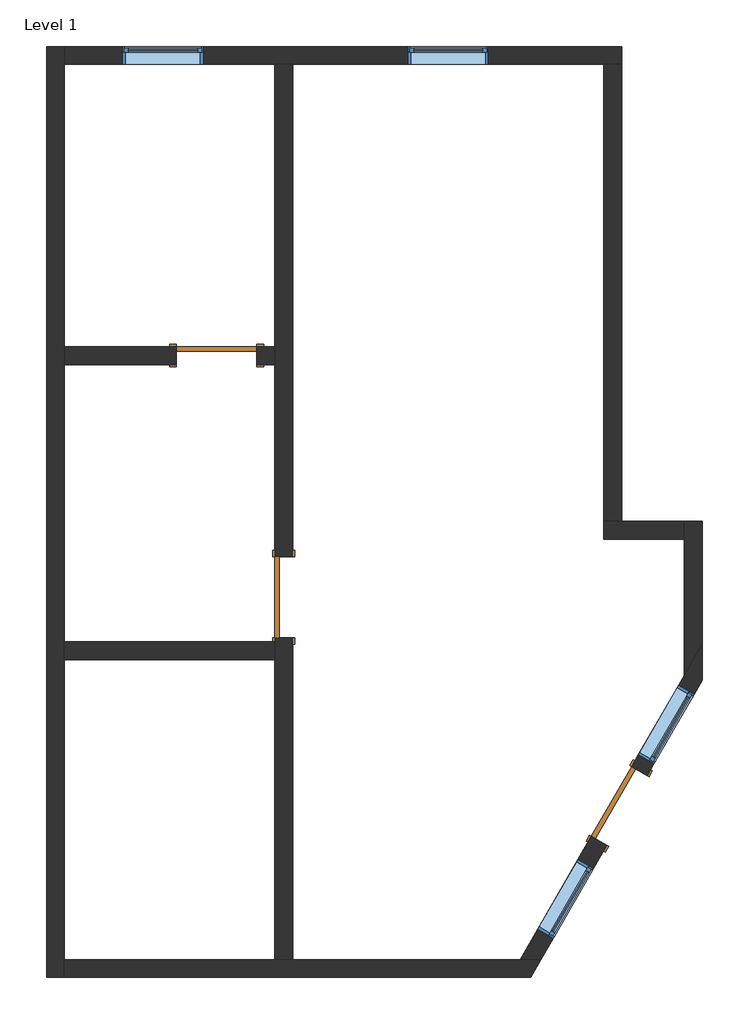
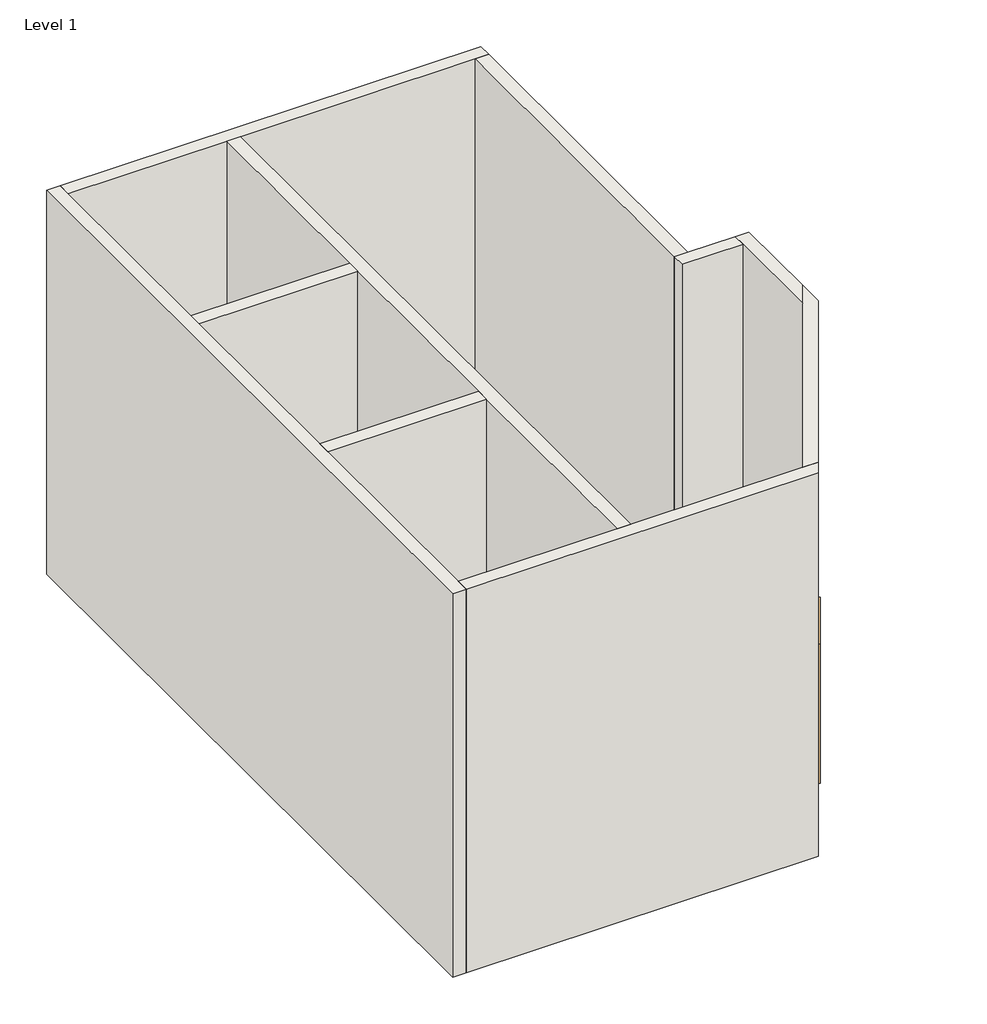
# One storey: 10 walls, 4 windows, 3 doors.
"""IFC4 building model written with IfcOpenShell, lengths in millimetres."""

from ifc_helpers import new_model, si_unit, frame, origin, origin_with_axes, place, context, project, spatial, polyline, outline, extrude, faceted_brep, transform, mapped, element, save
from components import door_719f80de, door_54dd4da4, window_e2841890

model = new_model("IFC4")

# Units and contexts
model_context = context("Model", 3, world=origin())
ifc_project = project(units=[si_unit("LENGTHUNIT", "METRE", prefix="MILLI")], contexts=[model_context])

# Site, building, storey
site = spatial("IfcSite", under=ifc_project)
building = spatial("IfcBuilding", under=site)
storey = spatial("IfcBuildingStorey", under=building, Name="Level 1", Elevation=0.0)

# Doors
placement = place(None, origin())
door_shape = door_719f80de(model_context)
element("IfcDoor", 1, ObjectType="Single-Flush : 36\" x 84\"", at=placement, inside=storey, context=model_context, shape_type="MappedRepresentation", body=[
    mapped(door_shape, transform((-4082.5360422, 8154.7646644, 0.0), x_axis=(-0.5000000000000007, -0.8660254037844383, 0.0), y_axis=(0.8660254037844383, -0.5000000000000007, 0.0), z_axis=(0.0, 0.0, 1.0))),
])
element("IfcDoor", 2, ObjectType="Single-Flush : 36\" x 84\"", at=placement, inside=storey, context=model_context, shape_type="MappedRepresentation", body=[
    mapped(door_shape, transform((-7891.1463436, 10523.37668, 0.0), x_axis=(0.0, -1.0, 0.0), y_axis=(1.0, 0.0, 0.0), z_axis=(0.0, 0.0, 1.0))),
])
door_2_shape = door_54dd4da4(model_context)
element("IfcDoor", 3, ObjectType="Single-Flush : 36\" x 84\"", at=placement, inside=storey, context=model_context, shape_type="MappedRepresentation", body=[
    mapped(door_2_shape, transform((-8653.1463436, 13266.57668, 0.0), x_axis=(1.0, 0.0, 0.0), y_axis=(0.0, 1.0, 0.0), z_axis=(0.0, 0.0, 1.0))),
])

# Walls
element("IfcWall", 4, ObjectType="Generic - 8\"", at=placement, inside=storey, context=model_context, shape_type="Brep", body=[
    faceted_brep([(-10583.5463436, 16774.2198915, 0.0), (-10583.5463436, 6207.8198915, 0.0), (-10583.5463436, 6207.8198915, 6096.0), (-10583.5463436, 16774.2198915, 6096.0), (-10380.3463436, 16774.2198915, 0.0), (-10380.3463436, 16774.2198915, 6096.0), (-10380.3463436, 16571.0198915, 6096.0), (-10380.3463436, 13368.17668, 6096.0), (-10380.3463436, 13164.97668, 6096.0), (-10380.3463436, 10015.37668, 6096.0), (-10380.3463436, 9812.17668, 6096.0), (-10380.3463436, 6411.0198915, 6096.0), (-10380.3463436, 6207.8198915, 6096.0), (-10380.3463436, 6207.8198915, 0.0), (-10380.3463436, 6411.0198915, 0.0), (-10380.3463436, 9812.17668, 0.0), (-10380.3463436, 10015.37668, 0.0), (-10380.3463436, 13164.97668, 0.0), (-10380.3463436, 13368.17668, 0.0), (-10380.3463436, 16571.0198915, 0.0)], [[[0, 1, 2, 3]], [[4, 5, 6, 7, 8, 9, 10, 11, 12, 13, 14, 15, 16, 17, 18, 19]], [[1, 0, 4, 19, 18, 17, 16, 15, 14, 13]], [[3, 2, 12, 11, 10, 9, 8, 7, 6, 5]], [[2, 1, 13, 12]], [[0, 3, 5, 4]]]),
])
element("IfcWall", 5, ObjectType="Generic - 8\"", at=placement, inside=storey, context=model_context, shape_type="Brep", body=[
    faceted_brep([(-10380.3463436, 6207.8198915, 0.0), (-5089.2875562, 6207.8198915, 0.0), (-5089.2875562, 6207.8198915, 6096.0), (-10380.3463436, 6207.8198915, 6096.0), (-10380.3463436, 6411.0198915, 0.0), (-10380.3463436, 6411.0198915, 6096.0), (-7992.7463436, 6411.0198915, 6096.0), (-7789.5463436, 6411.0198915, 6096.0), (-5206.6051309, 6411.0198915, 6096.0), (-4971.9699815, 6411.0198915, 6096.0), (-4971.9699815, 6411.0198915, 0.0), (-5206.6051309, 6411.0198915, 0.0), (-7789.5463436, 6411.0198915, 0.0), (-7992.7463436, 6411.0198915, 0.0)], [[[0, 1, 2, 3]], [[4, 5, 6, 7, 8, 9, 10, 11, 12, 13]], [[1, 0, 4, 13, 12, 11, 10]], [[3, 2, 9, 8, 7, 6, 5]], [[0, 3, 5, 4]], [[2, 1, 10, 9]]]),
])
element("IfcWall", 6, ObjectType="Generic - 8\"", at=placement, inside=storey, context=model_context, shape_type="Brep", body=[
    faceted_brep([(-4055.7463436, 16774.2198915, 0.0), (-10380.3463436, 16774.2198915, 0.0), (-10380.3463436, 16774.2198915, 6096.0), (-4055.7463436, 16774.2198915, 6096.0), (-8805.5463436, 16774.2198915, 2133.6), (-9719.9463436, 16774.2198915, 2133.6), (-9719.9463436, 16774.2198915, 914.4), (-8805.5463436, 16774.2198915, 914.4), (-5567.0463436, 16774.2198915, 2133.6), (-6481.4463436, 16774.2198915, 2133.6), (-6481.4463436, 16774.2198915, 914.4), (-5567.0463436, 16774.2198915, 914.4), (-4055.7463436, 16571.0198915, 0.0), (-4055.7463436, 16571.0198915, 6096.0), (-4258.9463436, 16571.0198915, 6096.0), (-7789.5463436, 16571.0198915, 6096.0), (-7992.7463436, 16571.0198915, 6096.0), (-10380.3463436, 16571.0198915, 6096.0), (-10380.3463436, 16571.0198915, 0.0), (-7992.7463436, 16571.0198915, 0.0), (-7789.5463436, 16571.0198915, 0.0), (-4258.9463436, 16571.0198915, 0.0), (-8805.5463436, 16571.0198915, 2133.6), (-8805.5463436, 16571.0198915, 914.4), (-9719.9463436, 16571.0198915, 914.4), (-9719.9463436, 16571.0198915, 2133.6), (-5567.0463436, 16571.0198915, 2133.6), (-5567.0463436, 16571.0198915, 914.4), (-6481.4463436, 16571.0198915, 914.4), (-6481.4463436, 16571.0198915, 2133.6)], [[[0, 1, 2, 3], [4, 5, 6, 7], [8, 9, 10, 11]], [[12, 13, 14, 15, 16, 17, 18, 19, 20, 21], [22, 23, 24, 25], [26, 27, 28, 29]], [[1, 0, 12, 21, 20, 19, 18]], [[3, 2, 17, 16, 15, 14, 13]], [[2, 1, 18, 17]], [[0, 3, 13, 12]], [[23, 22, 4, 7]], [[24, 23, 7, 6]], [[25, 24, 6, 5]], [[22, 25, 5, 4]], [[27, 26, 8, 11]], [[28, 27, 11, 10]], [[29, 28, 10, 9]], [[26, 29, 9, 8]]]),
])
element("IfcWall", 7, ObjectType="Generic - 8\"", at=placement, inside=storey, context=model_context, shape_type="Brep", body=[
    faceted_brep([(-4971.9699815, 6411.0198915, 0.0), (-4223.1478612, 7708.0178498, 0.0), (-4223.1478612, 7708.0178498, 2133.6), (-3765.9478612, 8499.911479, 2133.6), (-3765.9478612, 8499.911479, 0.0), (-3141.3463436, 9581.753042, 0.0), (-3141.3463436, 9581.753042, 6096.0), (-4971.9699815, 6411.0198915, 6096.0), (-4832.7478612, 6652.1596775, 2133.6), (-4375.5478612, 7444.0533067, 2133.6), (-4375.5478612, 7444.0533067, 914.4), (-4832.7478612, 6652.1596775, 914.4), (-3689.7478612, 8631.8937506, 2133.6), (-3232.5478612, 9423.7873798, 2133.6), (-3232.5478612, 9423.7873798, 914.4), (-3689.7478612, 8631.8937506, 914.4), (-4399.1242232, 7809.6178498, 2133.6), (-4399.1242232, 7809.6178498, 0.0), (-5206.6051309, 6411.0198915, 0.0), (-5206.6051309, 6411.0198915, 6096.0), (-3344.5463436, 9636.2003179, 6096.0), (-3141.3463436, 9988.153042, 6096.0), (-3141.3463436, 9988.153042, 0.0), (-3344.5463436, 9636.2003179, 0.0), (-3941.9242232, 8601.511479, 0.0), (-3941.9242232, 8601.511479, 2133.6), (-5008.7242232, 6753.7596775, 2133.6), (-5008.7242232, 6753.7596775, 914.4), (-4551.5242232, 7545.6533067, 914.4), (-4551.5242232, 7545.6533067, 2133.6), (-3865.7242232, 8733.4937506, 2133.6), (-3865.7242232, 8733.4937506, 914.4), (-3408.5242232, 9525.3873798, 914.4), (-3408.5242232, 9525.3873798, 2133.6)], [[[0, 1, 2, 3, 4, 5, 6, 7], [8, 9, 10, 11], [12, 13, 14, 15]], [[16, 17, 18, 19, 20, 21, 22, 23, 24, 25], [26, 27, 28, 29], [30, 31, 32, 33]], [[18, 17, 1, 0]], [[24, 23, 22, 5, 4]], [[7, 6, 21, 20, 19]], [[0, 7, 19, 18]], [[6, 5, 22, 21]], [[2, 1, 17, 16]], [[3, 2, 16, 25]], [[4, 3, 25, 24]], [[27, 26, 8, 11]], [[28, 27, 11, 10]], [[29, 28, 10, 9]], [[26, 29, 9, 8]], [[31, 30, 12, 15]], [[32, 31, 15, 14]], [[33, 32, 14, 13]], [[30, 33, 13, 12]]]),
])
element("IfcWall", 8, ObjectType="Generic - 8\"", at=placement, inside=storey, context=model_context, shape_type="Brep", body=[
    faceted_brep([(-3141.3463436, 9988.153042, 0.0), (-3141.3463436, 11386.97668, 0.0), (-3141.3463436, 11386.97668, 6096.0), (-3141.3463436, 9988.153042, 6096.0), (-3344.5463436, 9636.2003179, 0.0), (-3344.5463436, 9636.2003179, 6096.0), (-3344.5463436, 11183.77668, 6096.0), (-3344.5463436, 11386.97668, 6096.0), (-3344.5463436, 11386.97668, 0.0), (-3344.5463436, 11183.77668, 0.0)], [[[0, 1, 2, 3]], [[4, 5, 6, 7, 8, 9]], [[1, 0, 4, 9, 8]], [[3, 2, 7, 6, 5]], [[0, 3, 5, 4]], [[2, 1, 8, 7]]]),
])
element("IfcWall", 9, ObjectType="Generic - 8\"", at=placement, inside=storey, context=model_context, shape_type="Brep", body=[
    faceted_brep([(-3344.5463436, 11386.97668, 0.0), (-4055.7463436, 11386.97668, 0.0), (-4258.9463436, 11386.97668, 0.0), (-4258.9463436, 11386.97668, 6096.0), (-4055.7463436, 11386.97668, 6096.0), (-3344.5463436, 11386.97668, 6096.0), (-3344.5463436, 11183.77668, 0.0), (-3344.5463436, 11183.77668, 6096.0), (-4258.9463436, 11183.77668, 6096.0), (-4258.9463436, 11183.77668, 0.0)], [[[0, 1, 2, 3, 4, 5]], [[6, 7, 8, 9]], [[2, 1, 0, 6, 9]], [[5, 4, 3, 8, 7]], [[0, 5, 7, 6]], [[3, 2, 9, 8]]]),
])
element("IfcWall", 10, ObjectType="Generic - 8\"", at=placement, inside=storey, context=model_context, shape_type="SweptSolid", body=[
    extrude(outline(polyline([(-4055.7463436, 16571.0198915), (-4055.7463436, 11386.97668), (-4258.9463436, 11386.97668), (-4258.9463436, 16571.0198915), (-4055.7463436, 16571.0198915)])), origin_with_axes(), (0.0, 0.0, 1.0), 6096.0),
])
element("IfcWall", 11, ObjectType="Generic - 8\"", at=placement, inside=storey, context=model_context, shape_type="SweptSolid", body=[
    extrude(outline(polyline([(2133.6, -8195.9463436), (0.0, -8195.9463436), (0.0, -7992.7463436), (6096.0, -7992.7463436), (6096.0, -10380.3463436), (0.0, -10380.3463436), (0.0, -9110.3463436), (2133.6, -9110.3463436), (2133.6, -8195.9463436)])), frame((0.0, 13164.97668, 0.0), z_axis=(0.0, 1.0, 0.0), x_axis=(0.0, 0.0, 1.0)), (0.0, 0.0, 1.0), 203.2),
])
element("IfcWall", 12, ObjectType="Generic - 8\"", at=placement, inside=storey, context=model_context, shape_type="Brep", body=[
    faceted_brep([(-7789.5463436, 6411.0198915, 0.0), (-7789.5463436, 10066.17668, 0.0), (-7789.5463436, 10066.17668, 2133.6), (-7789.5463436, 10980.57668, 2133.6), (-7789.5463436, 10980.57668, 0.0), (-7789.5463436, 16571.0198915, 0.0), (-7789.5463436, 16571.0198915, 6096.0), (-7789.5463436, 6411.0198915, 6096.0), (-7992.7463436, 10066.17668, 2133.6), (-7992.7463436, 10066.17668, 0.0), (-7992.7463436, 10015.37668, 0.0), (-7992.7463436, 9812.17668, 0.0), (-7992.7463436, 6411.0198915, 0.0), (-7992.7463436, 6411.0198915, 6096.0), (-7992.7463436, 9812.17668, 6096.0), (-7992.7463436, 10015.37668, 6096.0), (-7992.7463436, 13164.97668, 6096.0), (-7992.7463436, 13368.17668, 6096.0), (-7992.7463436, 16571.0198915, 6096.0), (-7992.7463436, 16571.0198915, 0.0), (-7992.7463436, 13368.17668, 0.0), (-7992.7463436, 13164.97668, 0.0), (-7992.7463436, 10980.57668, 0.0), (-7992.7463436, 10980.57668, 2133.6)], [[[0, 1, 2, 3, 4, 5, 6, 7]], [[8, 9, 10, 11, 12, 13, 14, 15, 16, 17, 18, 19, 20, 21, 22, 23]], [[22, 21, 20, 19, 5, 4]], [[12, 11, 10, 9, 1, 0]], [[7, 6, 18, 17, 16, 15, 14, 13]], [[6, 5, 19, 18]], [[0, 7, 13, 12]], [[2, 1, 9, 8]], [[3, 2, 8, 23]], [[4, 3, 23, 22]]]),
])
element("IfcWall", 13, ObjectType="Generic - 8\"", at=placement, inside=storey, context=model_context, shape_type="SweptSolid", body=[
    extrude(outline(polyline([(-7992.7463436, 9812.17668), (-10380.3463436, 9812.17668), (-10380.3463436, 10015.37668), (-7992.7463436, 10015.37668), (-7992.7463436, 9812.17668)])), origin_with_axes(), (0.0, 0.0, 1.0), 6096.0),
])

# Windows
window_shape = window_e2841890(model_context)
element("IfcWindow", 14, ObjectType="Fixed : 36\" x 48\"", at=placement, inside=storey, context=model_context, shape_type="MappedRepresentation", body=[
    mapped(window_shape, transform((-4711.1860422, 7065.9109242, 0.0), x_axis=(-0.5000000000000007, -0.8660254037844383, 0.0), y_axis=(0.8660254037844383, -0.5000000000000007, 0.0), z_axis=(0.0, 0.0, 1.0))),
])
element("IfcWindow", 15, ObjectType="Fixed : 36\" x 48\"", at=placement, inside=storey, context=model_context, shape_type="MappedRepresentation", body=[
    mapped(window_shape, transform((-3568.1860422, 9045.6449973, 0.0), x_axis=(-0.5000000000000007, -0.8660254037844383, 0.0), y_axis=(0.8660254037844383, -0.5000000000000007, 0.0), z_axis=(0.0, 0.0, 1.0))),
])
element("IfcWindow", 16, ObjectType="Fixed : 36\" x 48\"", at=placement, inside=storey, context=model_context, shape_type="MappedRepresentation", body=[
    mapped(window_shape, transform((-9224.6463436, 16672.6198915, 0.0), x_axis=(1.0, 0.0, 0.0), y_axis=(0.0, 1.0, 0.0), z_axis=(0.0, 0.0, 1.0))),
])
element("IfcWindow", 17, ObjectType="Fixed : 36\" x 48\"", at=placement, inside=storey, context=model_context, shape_type="MappedRepresentation", body=[
    mapped(window_shape, transform((-5986.1463436, 16672.6198915, 0.0), x_axis=(1.0, 0.0, 0.0), y_axis=(0.0, 1.0, 0.0), z_axis=(0.0, 0.0, 1.0))),
])

save(model, "model.ifc")
